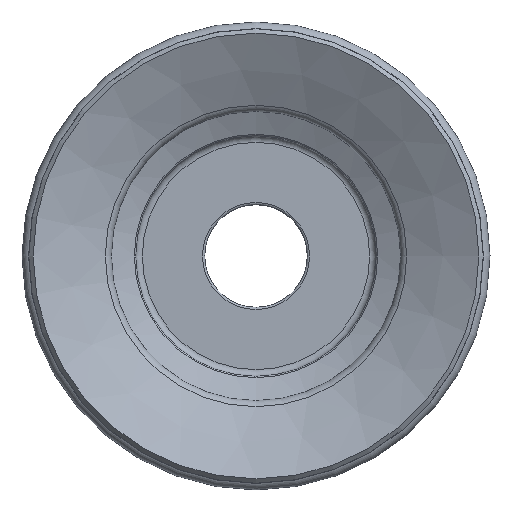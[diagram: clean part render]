
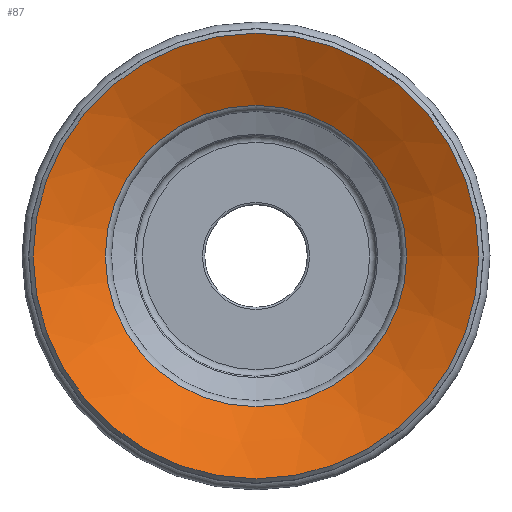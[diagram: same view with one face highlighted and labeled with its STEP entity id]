
A CAD part, front view. The second image highlights one B-rep face of the part: STEP entity #87.
In plain terms, the highlighted conical face has half-angle 63 degrees and reference radius 5.905 mm.
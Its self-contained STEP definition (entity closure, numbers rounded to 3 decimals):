
#87=ADVANCED_FACE('',(#136,#137),#138,.F.);
#136=FACE_BOUND('',#206,.T.);
#137=FACE_OUTER_BOUND('',#207,.T.);
#138=CONICAL_SURFACE('',#208,5.905,1.1);
#206=EDGE_LOOP('',(#300));
#207=EDGE_LOOP('',(#301));
#208=AXIS2_PLACEMENT_3D('',#302,#303,#304);
#300=ORIENTED_EDGE('',*,*,#365,.T.);
#301=ORIENTED_EDGE('',*,*,#375,.T.);
#302=CARTESIAN_POINT('',(0.0,5.261,0.0));
#303=DIRECTION('',(-0.0,-1.0,0.));
#304=DIRECTION('',(0.0,0.,-1.0));
#365=EDGE_CURVE('',#397,#397,#398,.T.);
#375=EDGE_CURVE('',#417,#417,#418,.T.);
#397=VERTEX_POINT('',#443);
#398=CIRCLE('',#444,6.761);
#417=VERTEX_POINT('',#463);
#418=CIRCLE('',#464,10.0);
#443=CARTESIAN_POINT('',(0.0,4.825,6.761));
#444=AXIS2_PLACEMENT_3D('',#498,#499,#500);
#463=CARTESIAN_POINT('',(10.0,3.175,0.0));
#464=AXIS2_PLACEMENT_3D('',#528,#529,#530);
#498=CARTESIAN_POINT('',(0.0,4.825,0.));
#499=DIRECTION('',(0.0,1.0,0.));
#500=DIRECTION('',(0.0,0.,1.0));
#528=CARTESIAN_POINT('',(0.0,3.175,0.0));
#529=DIRECTION('',(0.0,-1.0,0.));
#530=DIRECTION('',(0.0,0.,-1.0));
